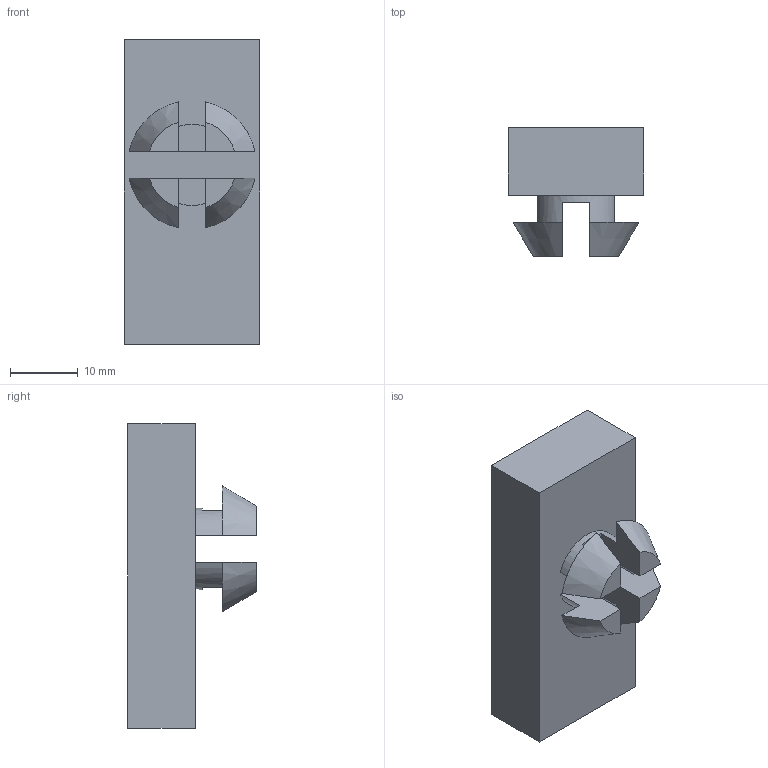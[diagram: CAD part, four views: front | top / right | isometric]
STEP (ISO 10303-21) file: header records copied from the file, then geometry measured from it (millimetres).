
FILE_DESCRIPTION(/* description */ ('STEP AP242 Edition 2','CAx-IF Rec.Pracs.---Representation and Presentation of Product Manufacturing Information (PMI)---4.0---2014-10-13','CAx-IF Rec.Pracs.---3D Tessellated Geometry---0.4---2014-09-14','2;1','CAx-IF Rec.Pracs.---User Defined Attributes---1.5---2016-08-15'),/* implementation_level */ '2;1');
FILE_NAME(/* name */ 'MHL - espacador',/* time_stamp */ '2025-11-29T18:38:08Z',/* author */ (''),/* organization */ (''),/* preprocessor_version */ 'ST-DEVELOPER v20',/* originating_system */ 'ONSHAPE BY PTC INC, 1.207',/* authorisation */ ' ');
FILE_SCHEMA (('AP242_MANAGED_MODEL_BASED_3D_ENGINEERING_MIM_LF { 1 0 10303 442 3 1 4 }'));
Length unit declared in the file: metre
Products named in the file (1): espacador
Bounding box: 20 x 19 x 45 mm (x, y, z)
Volume: 9643.4 mm3; surface area: 3863.1 mm2
Topology: 1 solids, 1 shells, 28 faces, 72 edges, 48 vertices
Faces by surface type: plane 22, cone 4, cylinder 2
Entity records: 882 total; most frequent: CARTESIAN_POINT 173, ORIENTED_EDGE 144, DIRECTION 138, EDGE_CURVE 72, LINE 48, VECTOR 48, VERTEX_POINT 48, AXIS2_PLACEMENT_3D 45
